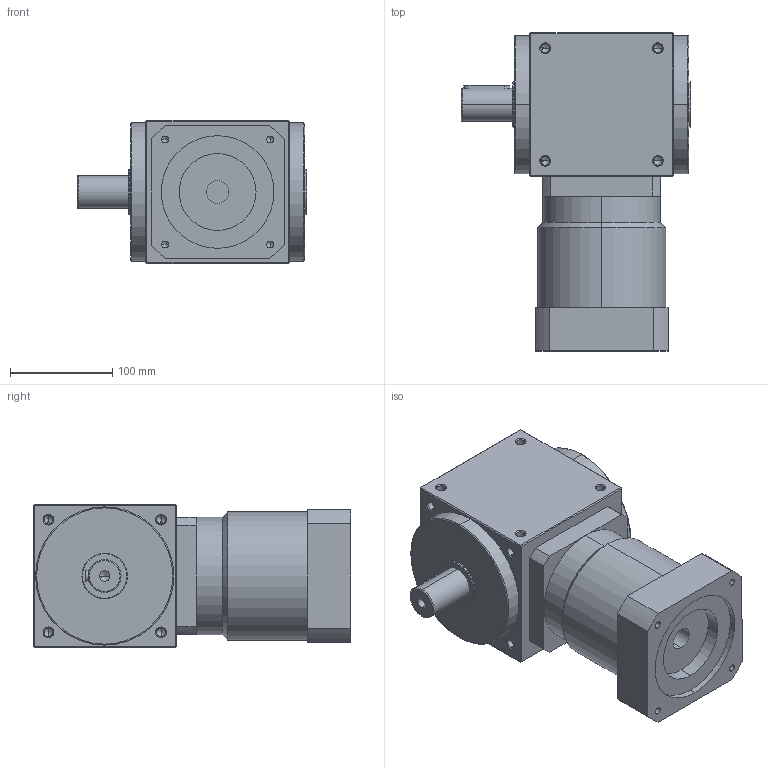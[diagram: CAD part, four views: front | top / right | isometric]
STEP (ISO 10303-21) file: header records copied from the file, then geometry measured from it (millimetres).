
FILE_DESCRIPTION (( 'STEP AP214' ), '1' );
FILE_NAME ('AT140-FL-L2 22-110-145-M8.STEP', '2020-11-19T05:04:35', ( '微软用户' ), ( '微软中国' ), 'SwSTEP 2.0', 'SolidWorks 2014', '' );
FILE_SCHEMA (( 'AUTOMOTIVE_DESIGN' ));
Length unit declared in the file: millimetre
Products named in the file (2): AT140-FL-L2 22-110-145-M8
Bounding box: 224 x 310.5 x 140 mm (x, y, z)
Volume: 5294452.3 mm3; surface area: 237123.5 mm2
Topology: 1 solids, 1 shells, 277 faces, 692 edges, 379 vertices
Faces by surface type: cylinder 120, cone 98, plane 53, torus 6
Entity records: 10934 total; most frequent: CARTESIAN_POINT 1706, DIRECTION 1310, ORIENTED_EDGE 1284, EDGE_CURVE 642, AXIS2_PLACEMENT_3D 503, VERTEX_POINT 379, EDGE_LOOP 313, LINE 304
